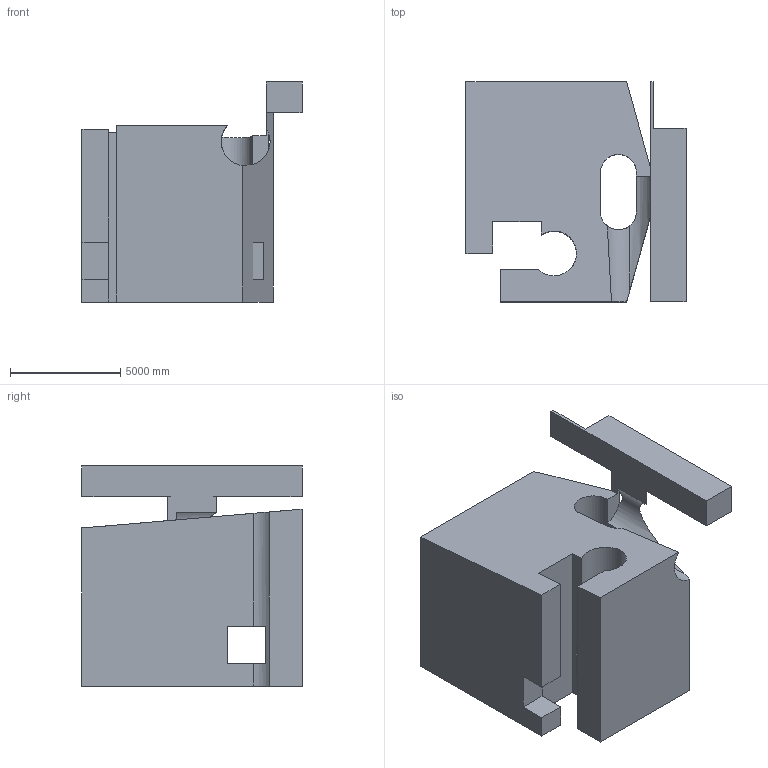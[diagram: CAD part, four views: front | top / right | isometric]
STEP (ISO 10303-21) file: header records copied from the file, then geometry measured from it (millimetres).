
FILE_DESCRIPTION (( 'STEP AP203' ), '1' );
FILE_NAME ('800.STEP', '2022-07-29T13:18:07', ( 'user' ), ( '' ), 'SwSTEP 2.0', 'SolidWorks 2021', '' );
FILE_SCHEMA (( 'CONFIG_CONTROL_DESIGN' ));
Length unit declared in the file: centimetre
Products named in the file (1): 800
Bounding box: 10000 x 10000 x 10000 mm (x, y, z)
Volume: 482604121424.7 mm3; surface area: 604098961.5 mm2
Topology: 1 solids, 1 shells, 38 faces, 120 edges, 80 vertices
Faces by surface type: plane 33, cylinder 5
Entity records: 1550 total; most frequent: CARTESIAN_POINT 407, ORIENTED_EDGE 240, DIRECTION 199, EDGE_CURVE 120, LINE 101, VECTOR 101, VERTEX_POINT 80, AXIS2_PLACEMENT_3D 49
